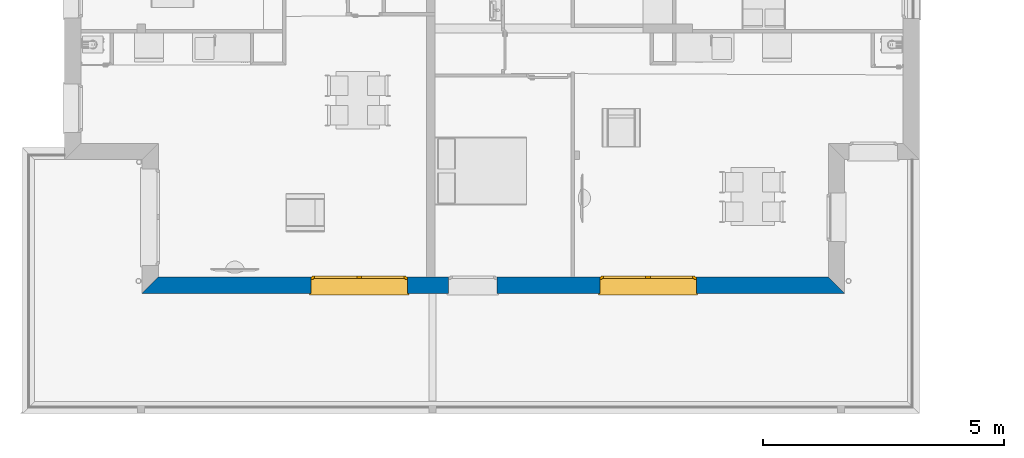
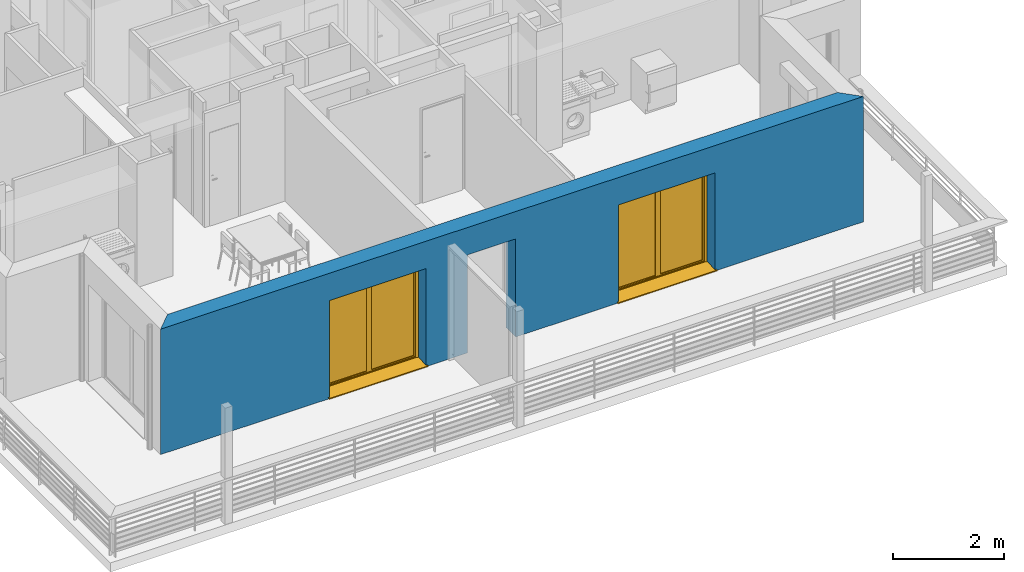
# One storey, part 5 of 164: 2 windows, 1 wall, 3 openings.
"""IFC2X3 building model written with IfcOpenShell, lengths in millimetres."""

from ifc_helpers import new_model, entity, si_unit, converted_unit, derived_unit, money_unit, direction, frame, origin_with_axes, place, context, subcontext, project, spatial, polyline, outline, extrude, open_shell, faceted_brep, surface_model, source, transform, mapped, material, layer, layer_set, layer_usage, type_object, element, fill, save


model = new_model("IFC2X3")

# Units and contexts
model_context = context("Model", 3, precision=0.01, world=origin_with_axes(), true_north=direction((0.0, 1.0)))
body_context = subcontext(model_context, "Body", "Model", "MODEL_VIEW")
ifc_project = project(units=[si_unit("LENGTHUNIT", "METRE", prefix="MILLI"), si_unit("AREAUNIT", "SQUARE_METRE"), si_unit("VOLUMEUNIT", "CUBIC_METRE"), converted_unit("PLANEANGLEUNIT", "DEGREE", entity("IfcPlaneAngleMeasure", 0.0174532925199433), si_unit("PLANEANGLEUNIT", "RADIAN"), dimensions=[0, 0, 0, 0, 0, 0, 0]), money_unit("USD"), converted_unit("TIMEUNIT", "Year", entity("IfcTimeMeasure", 31557600.0), si_unit("TIMEUNIT", "SECOND"), dimensions=[0, 0, 1, 0, 0, 0, 0]), si_unit("MASSUNIT", "GRAM", prefix="KILO"), si_unit("THERMODYNAMICTEMPERATUREUNIT", "DEGREE_CELSIUS"), si_unit("LUMINOUSINTENSITYUNIT", "LUMEN"), si_unit("ENERGYUNIT", "JOULE", prefix="MEGA"), derived_unit("THERMALCONDUCTANCEUNIT", [(si_unit("POWERUNIT", "WATT"), 1), (si_unit("LENGTHUNIT", "METRE"), -1), (si_unit("THERMODYNAMICTEMPERATUREUNIT", "KELVIN"), -1)]), derived_unit("SPECIFICHEATCAPACITYUNIT", [(si_unit("ENERGYUNIT", "JOULE"), 1), (si_unit("MASSUNIT", "GRAM", prefix="KILO"), -1), (si_unit("THERMODYNAMICTEMPERATUREUNIT", "KELVIN"), -1)]), derived_unit("MASSDENSITYUNIT", [(si_unit("MASSUNIT", "GRAM", prefix="KILO"), 1), (si_unit("VOLUMEUNIT", "CUBIC_METRE"), -1)])], contexts=[model_context])

# Site, building, storey
site_placement = place(None, origin_with_axes())
site = spatial("IfcSite", under=ifc_project, at=site_placement, Name="Site", CompositionType="ELEMENT")
building_placement = place(site_placement, origin_with_axes())
building = spatial("IfcBuilding", under=site, at=building_placement, Name="Bâtiment", CompositionType="ELEMENT")
storey_placement = place(building_placement, frame((0.0, 0.0, 5750.0), z_axis=(0.0, 0.0, 1.0), x_axis=(1.0, 0.0, 0.0)))
storey = spatial("IfcBuildingStorey", under=building, at=storey_placement, Name="Etage1", CompositionType="ELEMENT", Elevation=5750.0)

# Wall, openings, windows
ifc_material_1 = material(Name="Parpaing 312445824")
ifc_layer_1 = layer(ifc_material_1, 180.0, ventilated="UNKNOWN")
ifc_material_2 = material(Name="Isolant styromousse 301821074")
ifc_layer_2 = layer(ifc_material_2, 160.0, ventilated="UNKNOWN")
ifc_layer_set = layer_set([ifc_layer_1, ifc_layer_2], Name="isol int 18+16 0018356637")
ifc_layer_usage = layer_usage(ifc_layer_set, "AXIS2", "POSITIVE", 0.0)
wall_type = type_object("IfcWallType", Name="isol int 18+16 0018356637 340", PredefinedType="NOTDEFINED")
wall_placement = place(storey_placement, frame((2218234.233338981, -657818.3230769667, 0.0), z_axis=(0.0, 0.0, 1.0), x_axis=(1.0, 0.0, 0.0)))
wall = element("IfcWallStandardCase", 1, at=wall_placement, inside=storey, type_object=wall_type, material=ifc_layer_usage, Name="Mur-142", context=body_context, shape_type="SweptSolid", body=[
    extrude(outline(polyline([(0.0, 0.0), (14572.42475965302, 0.0), (14232.42475965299, 340.0000000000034), (340.0000000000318, 340.0000000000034), (0.0, 0.0)])), origin_with_axes(), (0.0, 0.0, 1.0), 2750.0),
])
opening_1_placement = place(wall_placement, frame((6861.100702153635, 0.0, 0.0), z_axis=(0.0, 0.0, 1.0), x_axis=(1.0, 0.0, 0.0)))
element("IfcOpeningElement", 2, at=opening_1_placement, cuts=wall, Name="Fen-208", context=body_context, shape_type="Brep", body=[
    faceted_brep([(-500.0, 341.0000000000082, 2150.0), (500.0, 341.0000000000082, 2150.0), (500.0, 341.0000000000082, 0.0), (-500.0, 341.0000000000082, 0.0), (-500.0, 530.0000000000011, 2150.0), (500.0, 530.0000000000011, 2150.0), (500.0, 290.0000000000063, 2150.0), (500.0, 290.0000000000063, 0.0), (500.0, -1.000000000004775, 0.0), (-500.0, -1.000000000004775, 0.0), (-500.0, 290.0000000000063, 0.0), (-500.0, 290.0000000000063, 2150.0), (-500.0, 280.0000000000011, 2150.0), (-500.0, 280.0000000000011, 2400.0), (-500.0, 530.0000000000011, 2400.0), (500.0, 530.0000000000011, 2400.0), (500.0, 280.0000000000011, 2400.0), (500.0, 280.0000000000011, 2150.0), (500.0, -1.000000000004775, 2150.0), (-500.0, -1.000000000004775, 2150.0)], [[[0, 1, 2, 3]], [[1, 0, 4, 5]], [[1, 6, 7, 2]], [[7, 8, 9, 10, 3, 2]], [[11, 0, 3, 10]], [[0, 11, 12, 13, 14, 4]], [[4, 14, 15, 5]], [[6, 1, 5, 15, 16, 17]], [[6, 17, 18, 8, 7]], [[19, 9, 8, 18]], [[12, 11, 10, 9, 19]], [[12, 17, 16, 13]], [[14, 13, 16, 15]], [[17, 12, 19, 18]]]),
])
opening_2_placement = place(wall_placement, frame((4505.859536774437, 0.0, 0.0), z_axis=(0.0, 0.0, 1.0), x_axis=(1.0, 0.0, 0.0)))
opening_2 = element("IfcOpeningElement", 3, at=opening_2_placement, cuts=wall, Name="Fen-207", context=body_context, shape_type="Brep", body=[
    faceted_brep([(-1000.0, 341.0000000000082, 2149.999999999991), (1000.0, 341.0000000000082, 2149.999999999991), (1000.0, 341.0000000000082, 0.0), (-1000.0, 341.0000000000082, 0.0), (-1000.0, 530.0000000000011, 2149.999999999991), (1000.0, 530.0000000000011, 2149.999999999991), (1000.0, 290.0000000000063, 2149.999999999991), (1000.0, 290.0000000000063, 0.0), (1000.0, -1.000000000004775, 0.0), (-1000.0, -1.000000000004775, 0.0), (-1000.0, 290.0000000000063, 0.0), (-1000.0, 290.0000000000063, 2149.999999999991), (-1000.0, 280.0000000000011, 2149.999999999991), (-1000.0, 280.0000000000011, 2399.999999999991), (-1000.0, 530.0000000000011, 2399.999999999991), (1000.0, 530.0000000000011, 2399.999999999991), (1000.0, 280.0000000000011, 2399.999999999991), (1000.0, 280.0000000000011, 2149.999999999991), (1000.0, -1.000000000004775, 2149.999999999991), (-1000.0, -1.000000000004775, 2149.999999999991)], [[[0, 1, 2, 3]], [[1, 0, 4, 5]], [[1, 6, 7, 2]], [[7, 8, 9, 10, 3, 2]], [[11, 0, 3, 10]], [[0, 11, 12, 13, 14, 4]], [[15, 5, 4, 14]], [[6, 1, 5, 15, 16, 17]], [[6, 17, 18, 8, 7]], [[19, 9, 8, 18]], [[12, 11, 10, 9, 19]], [[12, 17, 16, 13]], [[16, 15, 14, 13]], [[17, 12, 19, 18]]]),
])
opening_3_placement = place(wall_placement, frame((10494.55984898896, 0.0, 0.0), z_axis=(0.0, 0.0, 1.0), x_axis=(1.0, 0.0, 0.0)))
opening_3 = element("IfcOpeningElement", 4, at=opening_3_placement, cuts=wall, Name="Fen-207", context=body_context, shape_type="Brep", body=[
    faceted_brep([(-1000.0, 341.0000000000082, 2149.999999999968), (1000.0, 341.0000000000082, 2149.999999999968), (1000.0, 341.0000000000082, 0.0), (-1000.0, 341.0000000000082, 0.0), (-1000.0, 530.0000000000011, 2149.999999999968), (1000.0, 530.0000000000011, 2149.999999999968), (1000.0, 290.0000000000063, 2149.999999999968), (1000.0, 290.0000000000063, 0.0), (1000.0, -1.000000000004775, 0.0), (-1000.0, -1.000000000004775, 0.0), (-1000.0, 290.0000000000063, 0.0), (-1000.0, 290.0000000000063, 2149.999999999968), (-1000.0, 280.0000000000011, 2149.999999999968), (-1000.0, 280.0000000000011, 2399.999999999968), (-1000.0, 530.0000000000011, 2399.999999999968), (1000.0, 530.0000000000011, 2399.999999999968), (1000.0, 280.0000000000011, 2399.999999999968), (1000.0, 280.0000000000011, 2149.999999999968), (1000.0, -1.000000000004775, 2149.999999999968), (-1000.0, -1.000000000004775, 2149.999999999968)], [[[0, 1, 2, 3]], [[1, 0, 4, 5]], [[1, 6, 7, 2]], [[7, 8, 9, 10, 3, 2]], [[11, 0, 3, 10]], [[0, 11, 12, 13, 14, 4]], [[15, 5, 4, 14]], [[6, 1, 5, 15, 16, 17]], [[6, 17, 18, 8, 7]], [[19, 9, 8, 18]], [[12, 11, 10, 9, 19]], [[12, 17, 16, 13]], [[16, 15, 14, 13]], [[17, 12, 19, 18]]]),
])
window_style = type_object("IfcWindowStyle", Name="Fenêtre châssis double variable 27", ConstructionType="NOTDEFINED", OperationType="DOUBLE_PANEL_VERTICAL", ParameterTakesPrecedence=False, Sizeable=False)
shared_shape = source(origin_with_axes(), body_context, "Body", "SurfaceModel", [
    surface_model("IfcShellBasedSurfaceModel", [(1000.0, -51.00000000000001, 40.00000000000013), (1000.0, -51.00000000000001, 50.00000000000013), (-1000.0, -51.00000000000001, 50.0), (-1000.0, -51.00000000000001, 40.0), (1030.0, -369.9999999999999, 28.96551724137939), (1030.0, -339.9999999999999, 30.00324289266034), (1000.0, -339.9999999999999, 30.00324289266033), (-1000.0, -339.9999999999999, 30.00324289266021), (-1030.0, -339.9999999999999, 30.00324289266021), (-1030.0, -369.9999999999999, 28.96551724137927), (1030.0, -369.9999999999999, 8.965517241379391), (-1030.0, -369.9999999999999, 8.965517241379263), (1030.0, -359.9999999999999, 18.96551724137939), (-1030.0, -359.9999999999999, 18.96551724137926)], [open_shell([[[0, 1, 2, 3]], [[4, 5, 6, 0, 3, 7, 8, 9]], [[10, 4, 9, 11]], [[12, 10, 11, 13]]])]),
    faceted_brep([(-1000.0, -60.00000000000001, 2400.0), (-997.0, -60.00000000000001, 2400.0), (-997.0, 190.0, 2400.0), (-1000.0, 190.0, 2400.0), (-1000.0, -60.00000000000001, 2150.0), (-997.0, -60.00000000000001, 2150.0), (-997.0, 190.0, 2150.0), (-1000.0, 190.0, 2150.0)], [[[0, 1, 2, 3]], [[4, 5, 1, 0]], [[1, 5, 6, 2]], [[3, 2, 6, 7]], [[0, 3, 7, 4]], [[7, 6, 5, 4]]]),
    faceted_brep([(997.0000000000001, -59.99999999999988, 2400.0), (1000.0, -59.99999999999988, 2400.0), (1000.0, 190.0000000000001, 2400.0), (997.0000000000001, 190.0000000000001, 2400.0), (997.0000000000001, -59.99999999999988, 2150.0), (1000.0, -59.99999999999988, 2150.0), (1000.0, 190.0000000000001, 2150.0), (997.0000000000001, 190.0000000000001, 2150.0)], [[[0, 1, 2, 3]], [[4, 5, 1, 0]], [[1, 5, 6, 2]], [[3, 2, 6, 7]], [[0, 3, 7, 4]], [[7, 6, 5, 4]]]),
    faceted_brep([(-997.0, -60.0, 2150.0), (997.0, -59.99999999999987, 2150.0), (997.0, -59.99999999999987, 2400.0), (-997.0, -60.0, 2400.0), (-997.0, -56.99999999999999, 2150.0), (997.0, -56.99999999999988, 2150.0), (997.0, -56.99999999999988, 2397.0), (997.0, 187.0000000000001, 2397.0), (997.0, 187.0000000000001, 2153.0), (997.0, -37.99999999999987, 2153.0), (997.0, -37.99999999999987, 2150.0), (997.0, 190.0000000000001, 2150.0), (997.0, 190.0000000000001, 2400.0), (-997.0, 190.0, 2400.0), (-997.0, 190.0, 2150.0), (-997.0, -37.99999999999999, 2150.0), (-997.0, -37.99999999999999, 2153.0), (-997.0, 187.0, 2153.0), (-997.0, 187.0, 2397.0), (-997.0, -56.99999999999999, 2397.0)], [[[0, 1, 2, 3]], [[4, 5, 1, 0]], [[1, 5, 6, 7, 8, 9, 10, 11, 12, 2]], [[3, 2, 12, 13]], [[0, 3, 13, 14, 15, 16, 17, 18, 19, 4]], [[19, 6, 5, 4]], [[18, 7, 6, 19]], [[17, 8, 7, 18]], [[16, 9, 8, 17]], [[15, 10, 9, 16]], [[14, 11, 10, 15]], [[13, 12, 11, 14]]]),
    faceted_brep([(-994.0, -40.37442957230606, 2256.419644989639), (-994.0, -41.99999999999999, 2275.0), (-994.0, -40.37442957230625, 2293.580355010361), (-994.0, -35.54711042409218, 2311.596155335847), (-994.0, -27.66471820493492, 2328.5), (-994.0, -16.96675541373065, 2343.77827423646), (-994.0, -3.778274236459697, 2356.96675541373), (-994.0, 11.5, 2367.664718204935), (-994.0, 28.40384466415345, 2375.547110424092), (-994.0, 46.41964498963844, 2380.374429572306), (-994.0, 64.99999999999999, 2382.0), (-994.0, 83.58035501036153, 2380.374429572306), (-994.0, 101.5961553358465, 2375.547110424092), (-994.0, 118.5, 2367.664718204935), (-994.0, 133.7782742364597, 2356.96675541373), (-994.0, 146.9667554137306, 2343.77827423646), (-994.0, 157.6647182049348, 2328.5), (-994.0, 165.5471104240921, 2311.596155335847), (-994.0, 170.3744295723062, 2293.580355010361), (-994.0, 171.9999999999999, 2275.0), (-994.0, 170.3744295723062, 2256.419644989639), (-994.0, 165.5471104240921, 2238.403844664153), (-994.0, 157.6647182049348, 2221.5), (-994.0, 146.9667554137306, 2206.22172576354), (-994.0, 133.7782742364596, 2193.033244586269), (-994.0, 118.4999999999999, 2182.335281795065), (-994.0, 101.5961553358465, 2174.452889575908), (-994.0, 83.58035501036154, 2169.625570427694), (-994.0, 65.00000000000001, 2168.0), (-994.0, 46.4196449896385, 2169.625570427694), (-994.0, 28.40384466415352, 2174.452889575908), (-994.0, 11.50000000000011, 2182.335281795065), (-994.0, -3.778274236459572, 2193.033244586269), (-994.0, -16.9667554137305, 2206.22172576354), (-994.0, -27.66471820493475, 2221.5), (-994.0, -35.54711042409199, 2238.403844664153), (994.0, -40.37442957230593, 2256.419644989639), (994.0, -41.99999999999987, 2275.0), (994.0, -40.37442957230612, 2293.580355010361), (994.0, -35.54711042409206, 2311.596155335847), (994.0, -27.6647182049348, 2328.5), (994.0, -16.96675541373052, 2343.77827423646), (994.0, -3.778274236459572, 2356.96675541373), (994.0, 11.50000000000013, 2367.664718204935), (994.0, 28.40384466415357, 2375.547110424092), (994.0, 46.41964498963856, 2380.374429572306), (994.0, 65.00000000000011, 2382.0), (994.0, 83.58035501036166, 2380.374429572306), (994.0, 101.5961553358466, 2375.547110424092), (994.0, 118.5000000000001, 2367.664718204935), (994.0, 133.7782742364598, 2356.96675541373), (994.0, 146.9667554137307, 2343.77827423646), (994.0, 157.664718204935, 2328.5), (994.0, 165.5471104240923, 2311.596155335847), (994.0, 170.3744295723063, 2293.580355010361), (994.0, 172.0, 2275.0), (994.0, 170.3744295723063, 2256.419644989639), (994.0, 165.5471104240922, 2238.403844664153), (994.0, 157.6647182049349, 2221.5), (994.0, 146.9667554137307, 2206.22172576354), (994.0, 133.7782742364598, 2193.033244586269), (994.0, 118.5000000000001, 2182.335281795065), (994.0, 101.5961553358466, 2174.452889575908), (994.0, 83.58035501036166, 2169.625570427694), (994.0, 65.00000000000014, 2168.0), (994.0, 46.41964498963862, 2169.625570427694), (994.0, 28.40384466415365, 2174.452889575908), (994.0, 11.50000000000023, 2182.335281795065), (994.0, -3.778274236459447, 2193.033244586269), (994.0, -16.96675541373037, 2206.22172576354), (994.0, -27.66471820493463, 2221.5), (994.0, -35.54711042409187, 2238.403844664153)], [[[0, 1, 2, 3, 4, 5, 6, 7, 8, 9, 10, 11, 12, 13, 14, 15, 16, 17, 18, 19, 20, 21, 22, 23, 24, 25, 26, 27, 28, 29, 30, 31, 32, 33, 34, 35]], [[0, 36, 37, 1]], [[1, 37, 38, 2]], [[2, 38, 39, 3]], [[3, 39, 40, 4]], [[4, 40, 41, 5]], [[5, 41, 42, 6]], [[6, 42, 43, 7]], [[7, 43, 44, 8]], [[8, 44, 45, 9]], [[9, 45, 46, 10]], [[10, 46, 47, 11]], [[11, 47, 48, 12]], [[12, 48, 49, 13]], [[13, 49, 50, 14]], [[14, 50, 51, 15]], [[15, 51, 52, 16]], [[16, 52, 53, 17]], [[17, 53, 54, 18]], [[18, 54, 55, 19]], [[19, 55, 56, 20]], [[20, 56, 57, 21]], [[21, 57, 58, 22]], [[22, 58, 59, 23]], [[23, 59, 60, 24]], [[24, 60, 61, 25]], [[25, 61, 62, 26]], [[26, 62, 63, 27]], [[27, 63, 64, 28]], [[28, 64, 65, 29]], [[29, 65, 66, 30]], [[30, 66, 67, 31]], [[31, 67, 68, 32]], [[32, 68, 69, 33]], [[33, 69, 70, 34]], [[34, 70, 71, 35]], [[35, 71, 36, 0]], [[36, 71, 70, 69, 68, 67, 66, 65, 64, 63, 62, 61, 60, 59, 58, 57, 56, 55, 54, 53, 52, 51, 50, 49, 48, 47, 46, 45, 44, 43, 42, 41, 40, 39, 38, 37]]]),
    faceted_brep([(1000.0, -34.99999999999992, 30.0), (1000.0, -34.99999999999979, 2150.0), (1000.0, -59.99999999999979, 2150.0), (1000.0, -59.99999999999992, 30.0), (975.0, -34.99999999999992, 30.0), (975.0, -34.99999999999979, 2150.0), (975.0, -37.99999999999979, 2150.0), (997.0, -37.99999999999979, 2150.0), (997.0, -56.99999999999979, 2150.0), (975.0, -56.99999999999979, 2150.0), (975.0, -59.99999999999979, 2150.0), (975.0, -59.99999999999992, 30.0), (975.0, -56.99999999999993, 30.0), (997.0, -56.99999999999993, 30.0), (997.0, -37.99999999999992, 30.0), (975.0, -37.99999999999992, 30.0)], [[[0, 1, 2, 3]], [[4, 5, 1, 0]], [[1, 5, 6, 7, 8, 9, 10, 2]], [[3, 2, 10, 11]], [[0, 3, 11, 12, 13, 14, 15, 4]], [[15, 6, 5, 4]], [[14, 7, 6, 15]], [[13, 8, 7, 14]], [[12, 9, 8, 13]], [[11, 10, 9, 12]]]),
    faceted_brep([(-1000.0, -34.99999999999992, 30.0), (-1000.0, -59.99999999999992, 30.0), (-1000.0, -59.99999999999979, 2150.0), (-1000.0, -34.99999999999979, 2150.0), (-975.0, -34.99999999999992, 30.0), (-975.0, -37.99999999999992, 30.0), (-997.0, -37.99999999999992, 30.0), (-997.0, -56.99999999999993, 30.0), (-975.0, -56.99999999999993, 30.0), (-975.0, -59.99999999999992, 30.0), (-975.0, -59.99999999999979, 2150.0), (-975.0, -56.99999999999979, 2150.0), (-997.0, -56.99999999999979, 2150.0), (-997.0, -37.99999999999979, 2150.0), (-975.0, -37.99999999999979, 2150.0), (-975.0, -34.99999999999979, 2150.0)], [[[0, 1, 2, 3]], [[0, 4, 5, 6, 7, 8, 9, 1]], [[1, 9, 10, 2]], [[3, 2, 10, 11, 12, 13, 14, 15]], [[4, 0, 3, 15]], [[5, 4, 15, 14]], [[6, 5, 14, 13]], [[7, 6, 13, 12]], [[8, 7, 12, 11]], [[9, 8, 11, 10]]]),
    faceted_brep([(997.0, -46.66666666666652, 2275.0), (997.0, -46.66666666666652, 2266.666666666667), (-997.0, -46.66666666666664, 2266.666666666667), (-997.0, -46.66666666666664, 2275.0), (997.0, -51.66666666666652, 2275.0), (997.0, -51.66666666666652, 2266.666666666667), (997.0, -49.99999999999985, 2250.0), (997.0, -44.99999999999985, 2250.0), (-997.0, -44.99999999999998, 2250.0), (-997.0, -49.99999999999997, 2250.0), (-997.0, -51.66666666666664, 2266.666666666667), (-997.0, -51.66666666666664, 2275.0)], [[[0, 1, 2, 3]], [[4, 5, 6, 7, 1, 0]], [[2, 1, 7, 8]], [[3, 2, 8, 9, 10, 11]], [[3, 11, 4, 0]], [[10, 5, 4, 11]], [[9, 6, 5, 10]], [[8, 7, 6, 9]]]),
    faceted_brep([(-997.0, -44.99999999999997, 2250.0), (997.0, -44.99999999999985, 2250.0), (997.0, -46.66666666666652, 2233.333333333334), (-997.0, -46.66666666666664, 2233.333333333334), (-997.0, -49.99999999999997, 2250.0), (997.0, -49.99999999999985, 2250.0), (997.0, -51.66666666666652, 2233.333333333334), (997.0, -51.66666666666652, 2216.666666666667), (997.0, -49.99999999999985, 2200.0), (997.0, -44.99999999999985, 2200.0), (997.0, -46.66666666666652, 2216.666666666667), (-997.0, -46.66666666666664, 2216.666666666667), (-997.0, -44.99999999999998, 2200.0), (-997.0, -49.99999999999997, 2200.0), (-997.0, -51.66666666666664, 2216.666666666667), (-997.0, -51.66666666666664, 2233.333333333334)], [[[0, 1, 2, 3]], [[4, 5, 1, 0]], [[1, 5, 6, 7, 8, 9, 10, 2]], [[3, 2, 10, 11]], [[0, 3, 11, 12, 13, 14, 15, 4]], [[15, 6, 5, 4]], [[14, 7, 6, 15]], [[13, 8, 7, 14]], [[12, 9, 8, 13]], [[11, 10, 9, 12]]]),
    faceted_brep([(-997.0, -44.99999999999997, 2200.0), (997.0, -44.99999999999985, 2200.0), (997.0, -46.66666666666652, 2183.333333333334), (-997.0, -46.66666666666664, 2183.333333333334), (-997.0, -49.99999999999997, 2200.0), (997.0, -49.99999999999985, 2200.0), (997.0, -51.66666666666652, 2183.333333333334), (997.0, -51.66666666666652, 2166.666666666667), (997.0, -49.99999999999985, 2150.000000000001), (997.0, -44.99999999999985, 2150.000000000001), (997.0, -46.66666666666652, 2166.666666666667), (-997.0, -46.66666666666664, 2166.666666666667), (-997.0, -44.99999999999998, 2150.000000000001), (-997.0, -49.99999999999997, 2150.000000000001), (-997.0, -51.66666666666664, 2166.666666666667), (-997.0, -51.66666666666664, 2183.333333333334)], [[[0, 1, 2, 3]], [[4, 5, 1, 0]], [[1, 5, 6, 7, 8, 9, 10, 2]], [[3, 2, 10, 11]], [[0, 3, 11, 12, 13, 14, 15, 4]], [[15, 6, 5, 4]], [[14, 7, 6, 15]], [[13, 8, 7, 14]], [[12, 9, 8, 13]], [[11, 10, 9, 12]]]),
    faceted_brep([(-975.0, 0.0, 2100.0), (-1000.0, 0.0, 2100.0), (-1000.0, -50.00000000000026, 2100.0), (-950.0, -50.00000000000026, 2100.0), (-950.0, -25.00000000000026, 2100.0), (-975.0, -25.00000000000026, 2100.0), (-975.0, 0.0, 50.00000000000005), (-1000.0, 0.0, 50.00000000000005), (-1000.0, -50.00000000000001, 50.00000000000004), (-950.0, -50.00000000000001, 50.00000000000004), (-950.0, -25.00000000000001, 50.00000000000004), (-975.0, -25.00000000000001, 50.00000000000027)], [[[0, 1, 2, 3, 4, 5]], [[6, 7, 1, 0]], [[1, 7, 8, 2]], [[2, 8, 9, 3]], [[4, 3, 9, 10]], [[10, 11, 5, 4]], [[5, 11, 6, 0]], [[11, 10, 9, 8, 7, 6]]]),
    faceted_brep([(950.0, -25.00000000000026, 2100.0), (950.0, -50.00000000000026, 2100.0), (1000.0, -50.00000000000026, 2100.0), (1000.0, 0.0, 2100.0), (975.0, 0.0, 2100.0), (975.0, -25.00000000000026, 2100.0), (950.0, -25.00000000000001, 50.00000000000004), (950.0, -50.00000000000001, 50.00000000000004), (1000.0, -50.00000000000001, 50.00000000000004), (1000.0, 0.0, 50.00000000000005), (975.0, 0.0, 50.00000000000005), (975.0, -25.00000000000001, 50.00000000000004)], [[[0, 1, 2, 3, 4, 5]], [[6, 7, 1, 0]], [[8, 2, 1, 7]], [[9, 3, 2, 8]], [[4, 3, 9, 10]], [[10, 11, 5, 4]], [[5, 11, 6, 0]], [[11, 10, 9, 8, 7, 6]]]),
    faceted_brep([(950.0, -25.00000000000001, 50.00000000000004), (950.0, -50.00000000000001, 50.00000000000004), (1000.0, -50.00000000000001, 50.00000000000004), (1000.0, 0.0, 50.00000000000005), (975.0, 0.0, 50.00000000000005), (975.0, -25.00000000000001, 50.00000000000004), (-950.0, -25.00000000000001, 50.00000000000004), (-950.0, -50.00000000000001, 50.00000000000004), (-1000.0, -50.00000000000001, 50.00000000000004), (-1000.0, -50.0, 0.0), (1000.0, -50.0, 0.0), (1000.0, 0.0, 0.0), (-975.0, 0.0, 24.99999999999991), (975.0, 0.0, 24.99999999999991), (-1000.0, 0.0, 0.0), (-1000.0, 0.0, 50.00000000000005), (-975.0, 0.0, 50.00000000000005), (975.0, -25.0, 24.99999999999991), (-975.0, -25.0, 24.99999999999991), (-975.0, -25.00000000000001, 50.00000000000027)], [[[0, 1, 2, 3, 4, 5]], [[6, 7, 1, 0]], [[8, 9, 10, 2, 1, 7]], [[11, 3, 2, 10]], [[12, 13, 4, 3, 11, 14, 15, 16]], [[13, 17, 5, 4]], [[5, 17, 18, 19, 6, 0]], [[19, 16, 15, 8, 7, 6]], [[15, 14, 9, 8]], [[14, 11, 10, 9]], [[12, 18, 17, 13]], [[19, 18, 12, 16]]]),
    faceted_brep([(-975.0, 0.0, 2100.0), (-1000.0, 0.0, 2100.0), (-1000.0, 0.0, 2150.0), (1000.0, 0.0, 2150.0), (1000.0, 0.0, 2100.0), (975.0, 0.0, 2100.0), (975.0, 0.0, 2125.0), (-975.0, 0.0, 2125.0), (-975.0, -25.00000000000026, 2100.0), (-950.0, -25.00000000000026, 2100.0), (-950.0, -50.00000000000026, 2100.0), (-1000.0, -50.00000000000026, 2100.0), (-1000.0, -50.00000000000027, 2150.0), (1000.0, -50.00000000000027, 2150.0), (1000.0, -50.00000000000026, 2100.0), (975.0, -25.00000000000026, 2100.0), (950.0, -50.00000000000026, 2100.0), (950.0, -25.00000000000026, 2100.0), (975.0, -25.00000000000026, 2125.0), (-975.0, -25.00000000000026, 2125.0)], [[[0, 1, 2, 3, 4, 5, 6, 7]], [[8, 9, 10, 11, 1, 0]], [[2, 1, 11, 12]], [[3, 2, 12, 13]], [[4, 3, 13, 14]], [[15, 5, 4, 14, 16, 17]], [[5, 15, 18, 6]], [[6, 18, 19, 7]], [[7, 19, 8, 0]], [[17, 9, 8, 19, 18, 15]], [[17, 16, 10, 9]], [[14, 13, 12, 11, 10, 16]]]),
    faceted_brep([(-925.0, -25.00000000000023, 2075.0), (-925.0, 24.99999999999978, 2075.0), (-975.0, 24.99999999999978, 2075.0), (-975.0, -25.00000000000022, 2075.0), (-925.0, -24.99999999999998, 75.00000000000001), (-925.0, 25.00000000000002, 75.00000000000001), (-975.0, 25.00000000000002, 75.00000000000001), (-975.0, -24.99999999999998, 75.00000000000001)], [[[0, 1, 2, 3]], [[4, 5, 1, 0]], [[1, 5, 6, 2]], [[3, 2, 6, 7]], [[0, 3, 7, 4]], [[7, 6, 5, 4]]]),
    faceted_brep([(-49.99999999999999, -25.00000000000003, 75.00000000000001), (-49.99999999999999, 24.99999999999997, 75.00000000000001), (0.0, 24.99999999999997, 75.00000000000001), (0.0, -25.00000000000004, 75.00000000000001), (-49.99999999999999, -25.00000000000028, 2075.0), (-49.99999999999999, 24.99999999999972, 2075.0), (0.0, 24.99999999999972, 2075.0), (0.0, -25.00000000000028, 2075.0)], [[[0, 1, 2, 3]], [[4, 5, 1, 0]], [[1, 5, 6, 2]], [[3, 2, 6, 7]], [[0, 3, 7, 4]], [[7, 6, 5, 4]]]),
    faceted_brep([(0.0, -25.00000000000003, 25.0), (0.0, 24.99999999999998, 25.00000000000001), (0.0, 24.99999999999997, 75.00000000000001), (0.0, -25.00000000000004, 75.00000000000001), (-975.0, -24.99999999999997, 25.0), (-975.0, 25.00000000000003, 25.00000000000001), (-975.0, 25.00000000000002, 75.00000000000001), (-925.0, 25.00000000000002, 75.00000000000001), (-49.99999999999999, 24.99999999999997, 75.00000000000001), (-49.99999999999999, -25.00000000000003, 75.00000000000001), (-925.0, -24.99999999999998, 75.00000000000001), (-975.0, -24.99999999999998, 75.00000000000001)], [[[0, 1, 2, 3]], [[4, 5, 1, 0]], [[1, 5, 6, 7, 8, 2]], [[3, 2, 8, 9]], [[0, 3, 9, 10, 11, 4]], [[11, 6, 5, 4]], [[10, 7, 6, 11]], [[9, 8, 7, 10]]]),
    faceted_brep([(-975.0, -25.00000000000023, 2125.0), (-975.0, 24.99999999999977, 2125.0), (-975.0, 24.99999999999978, 2075.0), (-975.0, -25.00000000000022, 2075.0), (0.0, -25.00000000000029, 2125.0), (0.0, 24.99999999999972, 2125.0), (0.0, 24.99999999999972, 2075.0), (-49.99999999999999, 24.99999999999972, 2075.0), (-925.0, 24.99999999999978, 2075.0), (-925.0, -25.00000000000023, 2075.0), (-49.99999999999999, -25.00000000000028, 2075.0), (0.0, -25.00000000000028, 2075.0)], [[[0, 1, 2, 3]], [[4, 5, 1, 0]], [[1, 5, 6, 7, 8, 2]], [[3, 2, 8, 9]], [[0, 3, 9, 10, 11, 4]], [[11, 6, 5, 4]], [[10, 7, 6, 11]], [[9, 8, 7, 10]]]),
    surface_model("IfcShellBasedSurfaceModel", [(-925.0, -10.00000000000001, 75.00000000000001), (-49.99999999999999, -10.00000000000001, 75.00000000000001), (-49.99999999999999, -10.00000000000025, 2075.0), (-925.0, -10.00000000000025, 2075.0)], [open_shell([[[0, 1, 2, 3]]])]),
    surface_model("IfcShellBasedSurfaceModel", [(-925.0, 9.999999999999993, 75.00000000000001), (-925.0, 9.99999999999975, 2075.0), (-49.99999999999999, 9.99999999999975, 2075.0), (-49.99999999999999, 9.999999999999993, 75.00000000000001)], [open_shell([[[0, 1, 2, 3]]])]),
    faceted_brep([(49.99999999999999, -25.00000000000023, 2075.0), (49.99999999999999, 24.99999999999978, 2075.0), (0.0, 24.99999999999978, 2075.0), (0.0, -25.00000000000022, 2075.0), (49.99999999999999, -24.99999999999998, 75.00000000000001), (49.99999999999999, 25.00000000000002, 75.00000000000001), (0.0, 25.00000000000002, 75.00000000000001), (0.0, -24.99999999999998, 75.00000000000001)], [[[0, 1, 2, 3]], [[4, 5, 1, 0]], [[1, 5, 6, 2]], [[3, 2, 6, 7]], [[0, 3, 7, 4]], [[7, 6, 5, 4]]]),
    faceted_brep([(925.0, -25.00000000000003, 75.00000000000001), (925.0, 24.99999999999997, 75.00000000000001), (975.0, 24.99999999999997, 75.00000000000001), (975.0, -25.00000000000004, 75.00000000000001), (925.0, -25.00000000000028, 2075.0), (925.0, 24.99999999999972, 2075.0), (975.0, 24.99999999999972, 2075.0), (975.0, -25.00000000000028, 2075.0)], [[[0, 1, 2, 3]], [[4, 5, 1, 0]], [[1, 5, 6, 2]], [[3, 2, 6, 7]], [[0, 3, 7, 4]], [[7, 6, 5, 4]]]),
    faceted_brep([(975.0, -25.00000000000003, 25.0), (975.0, 24.99999999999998, 25.00000000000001), (975.0, 24.99999999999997, 75.00000000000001), (975.0, -25.00000000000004, 75.00000000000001), (0.0, -24.99999999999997, 25.0), (0.0, 25.00000000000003, 25.00000000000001), (0.0, 25.00000000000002, 75.00000000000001), (49.99999999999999, 25.00000000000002, 75.00000000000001), (925.0, 24.99999999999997, 75.00000000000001), (925.0, -25.00000000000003, 75.00000000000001), (49.99999999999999, -24.99999999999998, 75.00000000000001), (0.0, -24.99999999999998, 75.00000000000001)], [[[0, 1, 2, 3]], [[4, 5, 1, 0]], [[1, 5, 6, 7, 8, 2]], [[3, 2, 8, 9]], [[0, 3, 9, 10, 11, 4]], [[11, 6, 5, 4]], [[10, 7, 6, 11]], [[9, 8, 7, 10]]]),
    faceted_brep([(0.0, -25.00000000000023, 2125.0), (0.0, 24.99999999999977, 2125.0), (0.0, 24.99999999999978, 2075.0), (0.0, -25.00000000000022, 2075.0), (975.0, -25.00000000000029, 2125.0), (975.0, 24.99999999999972, 2125.0), (975.0, 24.99999999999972, 2075.0), (925.0, 24.99999999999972, 2075.0), (49.99999999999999, 24.99999999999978, 2075.0), (49.99999999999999, -25.00000000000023, 2075.0), (925.0, -25.00000000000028, 2075.0), (975.0, -25.00000000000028, 2075.0)], [[[0, 1, 2, 3]], [[4, 5, 1, 0]], [[1, 5, 6, 7, 8, 2]], [[3, 2, 8, 9]], [[0, 3, 9, 10, 11, 4]], [[11, 6, 5, 4]], [[10, 7, 6, 11]], [[9, 8, 7, 10]]]),
    surface_model("IfcShellBasedSurfaceModel", [(49.99999999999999, -10.00000000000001, 75.00000000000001), (925.0, -10.00000000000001, 75.00000000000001), (925.0, -10.00000000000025, 2075.0), (49.99999999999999, -10.00000000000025, 2075.0)], [open_shell([[[0, 1, 2, 3]]])]),
    surface_model("IfcShellBasedSurfaceModel", [(49.99999999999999, 9.999999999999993, 75.00000000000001), (49.99999999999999, 9.99999999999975, 2075.0), (925.0, 9.99999999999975, 2075.0), (925.0, 9.999999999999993, 75.00000000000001)], [open_shell([[[0, 1, 2, 3]]])]),
])
window_1_placement = place(opening_3_placement, frame((-1000.0, 0.0, 0.0), z_axis=(0.0, 0.0, 1.0), x_axis=(1.0, 0.0, 0.0)))
window_1 = element("IfcWindow", 5, at=window_1_placement, inside=storey, type_object=window_style, Name="Fen-207", OverallHeight=2150.0, OverallWidth=2000.0, context=body_context, shape_type="MappedRepresentation", body=[
    mapped(shared_shape, transform((1000.0, 340.0000000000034, 0.0))),
])
fill(opening_3, window_1)
window_2_placement = place(opening_2_placement, frame((-1000.000000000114, 0.0, 0.0), z_axis=(0.0, 0.0, 1.0), x_axis=(1.0, 0.0, 0.0)))
window_2 = element("IfcWindow", 6, at=window_2_placement, inside=storey, type_object=window_style, Name="Fen-207", OverallHeight=2150.0, OverallWidth=2000.0, context=body_context, shape_type="MappedRepresentation", body=[
    mapped(shared_shape, transform((1000.0, 340.0000000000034, 0.0))),
])
fill(opening_2, window_2)

save(model, "model.ifc")
